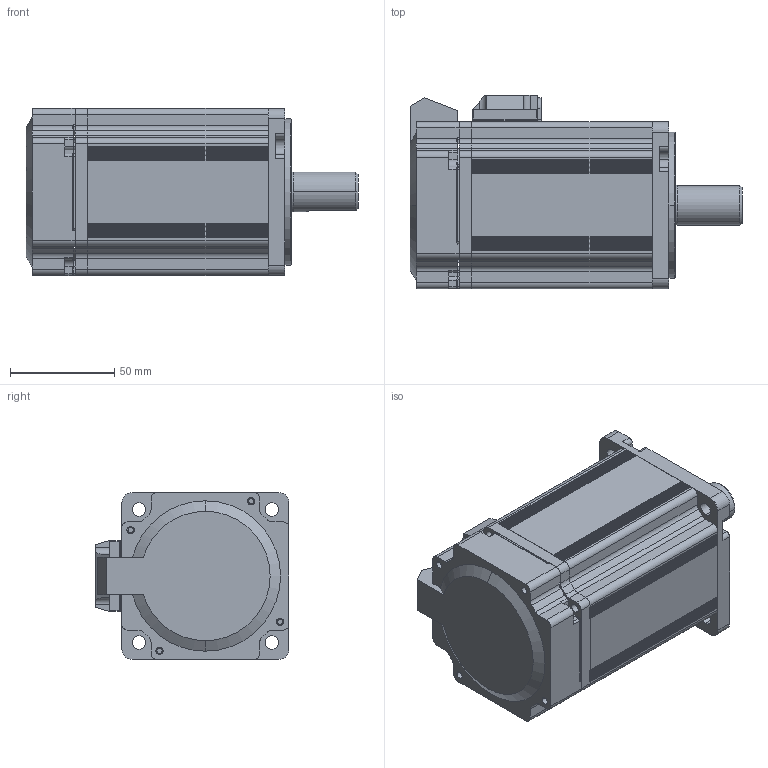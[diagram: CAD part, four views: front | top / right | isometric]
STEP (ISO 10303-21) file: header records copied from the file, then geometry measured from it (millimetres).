
FILE_DESCRIPTION (( 'STEP AP203' ), '1' );
FILE_NAME ('湮嫦講蚾饜极.STEP', '2019-10-21T06:27:21', ( '' ), ( '' ), 'SwSTEP 2.0', 'SolidWorks 2016', '' );
FILE_SCHEMA (( 'CONFIG_CONTROL_DESIGN' ));
Length unit declared in the file: millimetre
Products named in the file (1): 湮嫦講蚾饜极
Bounding box: 159 x 92.8 x 80 mm (x, y, z)
Surface area: 66801.1 mm2 (no closed solid volume)
Topology: 0 solids, 18 shells, 630 faces, 1939 edges, 1305 vertices
Faces by surface type: cylinder 378, plane 154, cone 32, bspline 25, sphere 24, torus 17
Entity records: 22547 total; most frequent: CARTESIAN_POINT 5126, DIRECTION 4023, ORIENTED_EDGE 3082, EDGE_CURVE 1915, AXIS2_PLACEMENT_3D 1588, VERTEX_POINT 1305, CIRCLE 982, LINE 847
